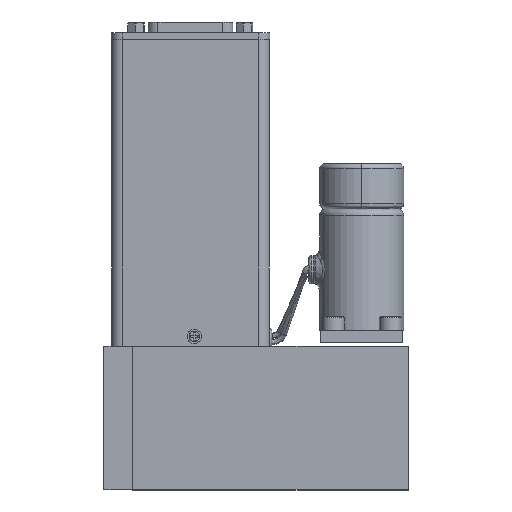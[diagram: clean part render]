
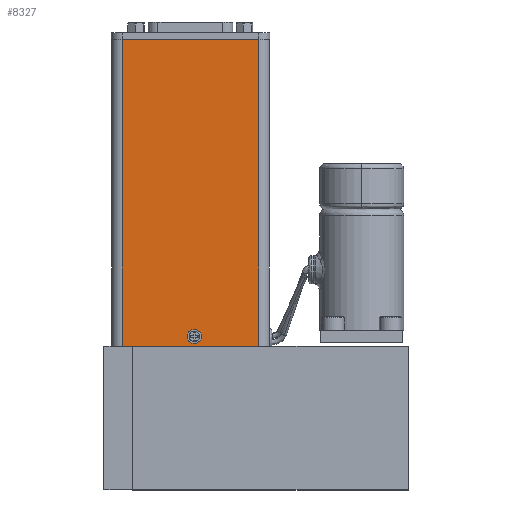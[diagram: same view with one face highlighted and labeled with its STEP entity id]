
A CAD part, front view. The second image highlights one B-rep face of the part: STEP entity #8327.
In plain terms, the highlighted planar face has unit normal (0, -1, 0).
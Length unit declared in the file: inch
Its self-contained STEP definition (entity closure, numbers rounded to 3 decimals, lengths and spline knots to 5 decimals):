
#208 = EDGE_CURVE ( 'NONE', #1204, #20202, #15074, .T. ) ;
#600 = ORIENTED_EDGE ( 'NONE', *, *, #208, .T. ) ;
#802 = VERTEX_POINT ( 'NONE', #8768 ) ;
#897 = LINE ( 'NONE', #11325, #14957 ) ;
#910 = CIRCLE ( 'NONE', #1248, 0.06299 ) ;
#1204 = VERTEX_POINT ( 'NONE', #2844 ) ;
#1248 = AXIS2_PLACEMENT_3D ( 'NONE', #5649, #18475, #7491 ) ;
#1642 = CARTESIAN_POINT ( 'NONE',  ( 0.20236, 0.008, 1.48511 ) ) ;
#2599 = EDGE_CURVE ( 'NONE', #4849, #802, #897, .T. ) ;
#2844 = CARTESIAN_POINT ( 'NONE',  ( 1.07761, 0.008, 1.6661 ) ) ;
#4227 = ORIENTED_EDGE ( 'NONE', *, *, #23536, .T. ) ;
#4388 = VECTOR ( 'NONE', #19991, 39.37008 ) ;
#4849 = VERTEX_POINT ( 'NONE', #19966 ) ;
#5028 = AXIS2_PLACEMENT_3D ( 'NONE', #7534, #20370, #9397 ) ;
#5414 = DIRECTION ( 'NONE',  ( -1., 0., 0. ) ) ;
#5455 = ORIENTED_EDGE ( 'NONE', *, *, #20233, .T. ) ;
#5649 = CARTESIAN_POINT ( 'NONE',  ( 1.07761, 0.008, 1.60311 ) ) ;
#5770 = EDGE_LOOP ( 'NONE', ( #5823, #8979, #5455, #11782 ) ) ;
#5823 = ORIENTED_EDGE ( 'NONE', *, *, #2599, .T. ) ;
#7237 = CARTESIAN_POINT ( 'NONE',  ( 1.85836, 0.008, 1.48511 ) ) ;
#7456 = CARTESIAN_POINT ( 'NONE',  ( 1.03036, 0.008, 1.48511 ) ) ;
#7491 = DIRECTION ( 'NONE',  ( 0., 0., 1. ) ) ;
#7534 = CARTESIAN_POINT ( 'NONE',  ( 1.07761, 0.008, 1.60311 ) ) ;
#7652 = CARTESIAN_POINT ( 'NONE',  ( 1.07761, 0.008, 1.54012 ) ) ;
#8086 = VECTOR ( 'NONE', #18651, 39.37008 ) ;
#8327 = ADVANCED_FACE ( 'NONE', ( #17717, #8549 ), #18440, .T. ) ;
#8549 = FACE_BOUND ( 'NONE', #13488, .T. ) ;
#8768 = CARTESIAN_POINT ( 'NONE',  ( 0.20236, 0.008, 5.19964 ) ) ;
#8979 = ORIENTED_EDGE ( 'NONE', *, *, #16418, .T. ) ;
#9329 = DIRECTION ( 'NONE',  ( 0., -1., 0. ) ) ;
#9397 = DIRECTION ( 'NONE',  ( 0., 0., 1. ) ) ;
#11238 = DIRECTION ( 'NONE',  ( 1., 0., 0. ) ) ;
#11325 = CARTESIAN_POINT ( 'NONE',  ( 1.03036, 0.008, 5.19964 ) ) ;
#11782 = ORIENTED_EDGE ( 'NONE', *, *, #12973, .T. ) ;
#12368 = LINE ( 'NONE', #16809, #8086 ) ;
#12973 = EDGE_CURVE ( 'NONE', #18133, #4849, #14135, .T. ) ;
#13488 = EDGE_LOOP ( 'NONE', ( #600, #4227 ) ) ;
#14135 = LINE ( 'NONE', #21808, #4388 ) ;
#14957 = VECTOR ( 'NONE', #5414, 39.37008 ) ;
#15074 = CIRCLE ( 'NONE', #5028, 0.06299 ) ;
#16418 = EDGE_CURVE ( 'NONE', #802, #21008, #12368, .T. ) ;
#16809 = CARTESIAN_POINT ( 'NONE',  ( 0.20236, 0.008, 1.48511 ) ) ;
#17717 = FACE_OUTER_BOUND ( 'NONE', #5770, .T. ) ;
#18133 = VERTEX_POINT ( 'NONE', #7237 ) ;
#18440 = PLANE ( 'NONE',  #21994 ) ;
#18475 = DIRECTION ( 'NONE',  ( 0., 1., 0. ) ) ;
#18522 = LINE ( 'NONE', #22389, #22827 ) ;
#18651 = DIRECTION ( 'NONE',  ( 0., 0., -1. ) ) ;
#19966 = CARTESIAN_POINT ( 'NONE',  ( 1.85836, 0.008, 5.19964 ) ) ;
#19991 = DIRECTION ( 'NONE',  ( 0., 0., 1. ) ) ;
#20202 = VERTEX_POINT ( 'NONE', #7652 ) ;
#20233 = EDGE_CURVE ( 'NONE', #21008, #18133, #18522, .T. ) ;
#20370 = DIRECTION ( 'NONE',  ( 0., 1., 0. ) ) ;
#21008 = VERTEX_POINT ( 'NONE', #1642 ) ;
#21808 = CARTESIAN_POINT ( 'NONE',  ( 1.85836, 0.008, 1.48511 ) ) ;
#21994 = AXIS2_PLACEMENT_3D ( 'NONE', #7456, #9329, #22130 ) ;
#22130 = DIRECTION ( 'NONE',  ( 0., 0., -1. ) ) ;
#22389 = CARTESIAN_POINT ( 'NONE',  ( 1.03036, 0.008, 1.48511 ) ) ;
#22827 = VECTOR ( 'NONE', #11238, 39.37008 ) ;
#23536 = EDGE_CURVE ( 'NONE', #20202, #1204, #910, .T. ) ;
